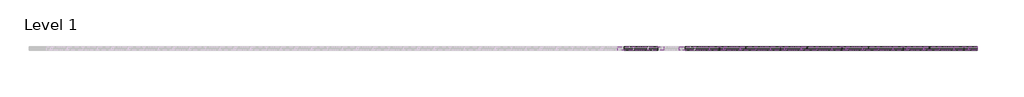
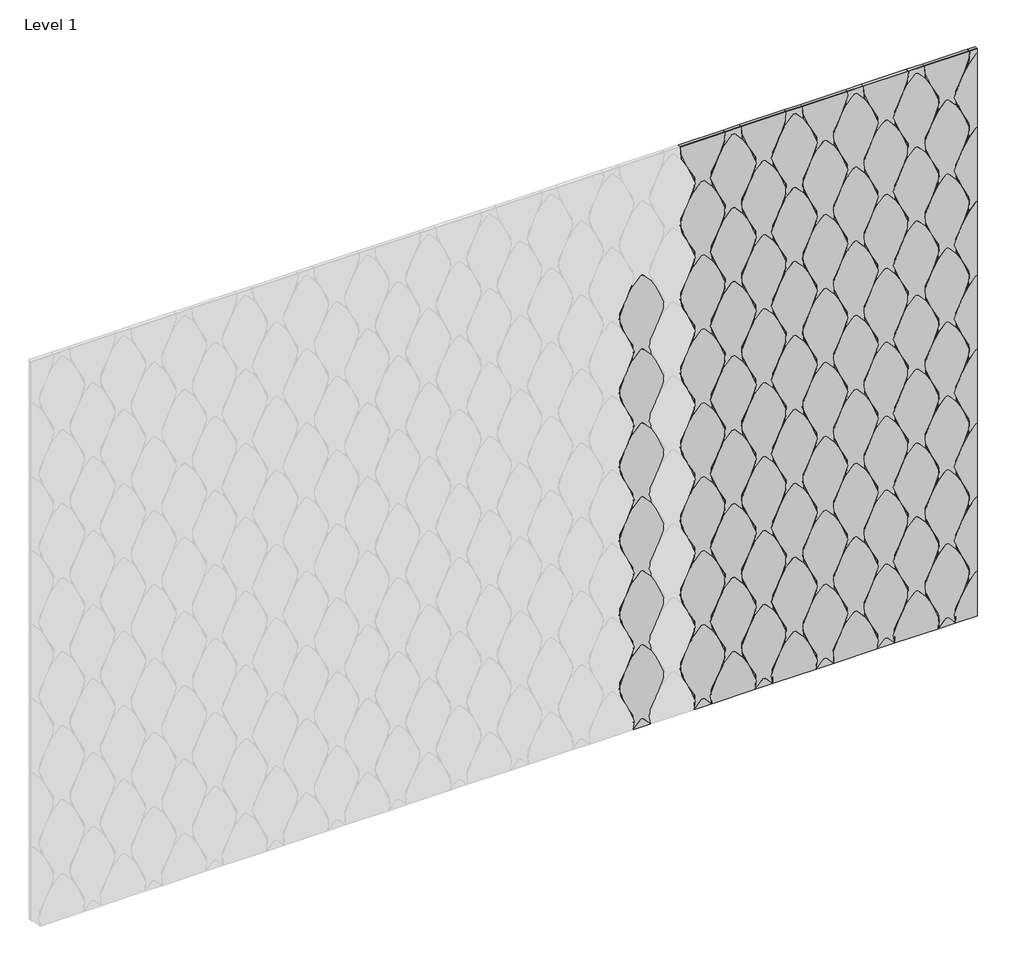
# One storey, part 3 of 3: 97 proxies.
"""IFC4 building model written with IfcOpenShell, lengths in millimetres."""

from ifc_helpers import new_model, si_unit, origin, place, context, project, spatial, transform, mapped, element, save
from components import specialty_equipment_90dfa3fd, specialty_equipment_1d57ec5c, specialty_equipment_d9d0cc40, specialty_equipment_58f33b70, specialty_equipment_77f5260d, specialty_equipment_34b07f8f, specialty_equipment_1d68d449, specialty_equipment_3b3f1b17, specialty_equipment_d7a9fa1d, specialty_equipment_8d9a8f15, specialty_equipment_a03a52e0, specialty_equipment_da839ed6, specialty_equipment_aaa09293, specialty_equipment_e5bbc03e, specialty_equipment_f8375183, specialty_equipment_363d60c9

model = new_model("IFC4")

# Units and contexts
model_context = context("Model", 3, world=origin())
ifc_project = project(units=[si_unit("LENGTHUNIT", "METRE", prefix="MILLI")], contexts=[model_context])

# Site, building, storey
site = spatial("IfcSite", under=ifc_project)
building = spatial("IfcBuilding", under=site)
storey = spatial("IfcBuildingStorey", under=building, Name="Level 1", Elevation=0.0)

# Proxies
placement = place(None, origin())
specialty_equipment_shape = specialty_equipment_90dfa3fd(model_context)
element("IfcBuildingElementProxy", 1, Name="FilzFelt_Fish_Block : Fish Block", ObjectType="FilzFelt_Fish_Block : Fish Block", at=placement, inside=storey, context=model_context, shape_type="MappedRepresentation", body=[
    mapped(specialty_equipment_shape, transform((22599.0422015, 4010.4660665, 1941.1055095), x_axis=(1.0, 0.0, 0.0), y_axis=(0.0, 0.0, 1.0), z_axis=(0.0, -1.0, 0.0))),
])
element("IfcBuildingElementProxy", 2, Name="FilzFelt_Fish_Block : Fish Block", ObjectType="FilzFelt_Fish_Block : Fish Block", at=placement, inside=storey, context=model_context, shape_type="MappedRepresentation", body=[
    mapped(specialty_equipment_shape, transform((22599.0422015, 4010.4660665, 1666.6574563), x_axis=(1.0, 0.0, 0.0), y_axis=(0.0, 0.0, 1.0), z_axis=(0.0, -1.0, 0.0))),
])
element("IfcBuildingElementProxy", 3, Name="FilzFelt_Fish_Block : Fish Block", ObjectType="FilzFelt_Fish_Block : Fish Block", at=placement, inside=storey, context=model_context, shape_type="MappedRepresentation", body=[
    mapped(specialty_equipment_shape, transform((22599.0422015, 4010.4660665, 843.3132968), x_axis=(1.0, 0.0, 0.0), y_axis=(0.0, 0.0, 1.0), z_axis=(0.0, -1.0, 0.0))),
])
element("IfcBuildingElementProxy", 4, Name="FilzFelt_Fish_Block : Fish Block", ObjectType="FilzFelt_Fish_Block : Fish Block", at=placement, inside=storey, context=model_context, shape_type="MappedRepresentation", body=[
    mapped(specialty_equipment_shape, transform((22599.0422015, 4010.4660665, 1392.2094032), x_axis=(1.0, 0.0, 0.0), y_axis=(0.0, 0.0, 1.0), z_axis=(0.0, -1.0, 0.0))),
])
element("IfcBuildingElementProxy", 5, Name="FilzFelt_Fish_Block : Fish Block", ObjectType="FilzFelt_Fish_Block : Fish Block", at=placement, inside=storey, context=model_context, shape_type="MappedRepresentation", body=[
    mapped(specialty_equipment_shape, transform((22706.139493, 4010.4660665, 2352.7775892), x_axis=(1.0, 0.0, 0.0), y_axis=(0.0, 0.0, 1.0), z_axis=(0.0, -1.0, 0.0))),
])
element("IfcBuildingElementProxy", 6, Name="FilzFelt_Fish_Block : Fish Block", ObjectType="FilzFelt_Fish_Block : Fish Block", at=placement, inside=storey, context=model_context, shape_type="MappedRepresentation", body=[
    mapped(specialty_equipment_shape, transform((22706.139493, 4010.4660665, 2078.329536), x_axis=(1.0, 0.0, 0.0), y_axis=(0.0, 0.0, 1.0), z_axis=(0.0, -1.0, 0.0))),
])
element("IfcBuildingElementProxy", 7, Name="FilzFelt_Fish_Block : Fish Block", ObjectType="FilzFelt_Fish_Block : Fish Block", at=placement, inside=storey, context=model_context, shape_type="MappedRepresentation", body=[
    mapped(specialty_equipment_shape, transform((22706.139493, 4010.4660665, 1803.8814829), x_axis=(1.0, 0.0, 0.0), y_axis=(0.0, 0.0, 1.0), z_axis=(0.0, -1.0, 0.0))),
])
element("IfcBuildingElementProxy", 8, Name="FilzFelt_Fish_Block : Fish Block", ObjectType="FilzFelt_Fish_Block : Fish Block", at=placement, inside=storey, context=model_context, shape_type="MappedRepresentation", body=[
    mapped(specialty_equipment_shape, transform((22706.139493, 4010.4660665, 1254.9853766), x_axis=(1.0, 0.0, 0.0), y_axis=(0.0, 0.0, 1.0), z_axis=(0.0, -1.0, 0.0))),
])
element("IfcBuildingElementProxy", 9, Name="FilzFelt_Fish_Block : Fish Block", ObjectType="FilzFelt_Fish_Block : Fish Block", at=placement, inside=storey, context=model_context, shape_type="MappedRepresentation", body=[
    mapped(specialty_equipment_shape, transform((22706.139493, 4010.4660665, 980.5373234), x_axis=(1.0, 0.0, 0.0), y_axis=(0.0, 0.0, 1.0), z_axis=(0.0, -1.0, 0.0))),
])
element("IfcBuildingElementProxy", 10, Name="FilzFelt_Fish_Block : Fish Block", ObjectType="FilzFelt_Fish_Block : Fish Block", at=placement, inside=storey, context=model_context, shape_type="MappedRepresentation", body=[
    mapped(specialty_equipment_shape, transform((22706.139493, 4010.4660665, 706.0892703), x_axis=(1.0, 0.0, 0.0), y_axis=(0.0, 0.0, 1.0), z_axis=(0.0, -1.0, 0.0))),
])
element("IfcBuildingElementProxy", 11, Name="FilzFelt_Fish_Block : Fish Block", ObjectType="FilzFelt_Fish_Block : Fish Block", at=placement, inside=storey, context=model_context, shape_type="MappedRepresentation", body=[
    mapped(specialty_equipment_shape, transform((22170.6530359, 4010.4660665, 1941.1055095), x_axis=(1.0, 0.0, 0.0), y_axis=(0.0, 0.0, 1.0), z_axis=(0.0, -1.0, 0.0))),
])
element("IfcBuildingElementProxy", 12, Name="FilzFelt_Fish_Block : Fish Block", ObjectType="FilzFelt_Fish_Block : Fish Block", at=placement, inside=storey, context=model_context, shape_type="MappedRepresentation", body=[
    mapped(specialty_equipment_shape, transform((22170.6530359, 4010.4660665, 1666.6574563), x_axis=(1.0, 0.0, 0.0), y_axis=(0.0, 0.0, 1.0), z_axis=(0.0, -1.0, 0.0))),
])
element("IfcBuildingElementProxy", 13, Name="FilzFelt_Fish_Block : Fish Block", ObjectType="FilzFelt_Fish_Block : Fish Block", at=placement, inside=storey, context=model_context, shape_type="MappedRepresentation", body=[
    mapped(specialty_equipment_shape, transform((22170.6530359, 4010.4660665, 2215.5535626), x_axis=(1.0, 0.0, 0.0), y_axis=(0.0, 0.0, 1.0), z_axis=(0.0, -1.0, 0.0))),
])
element("IfcBuildingElementProxy", 14, Name="FilzFelt_Fish_Block : Fish Block", ObjectType="FilzFelt_Fish_Block : Fish Block", at=placement, inside=storey, context=model_context, shape_type="MappedRepresentation", body=[
    mapped(specialty_equipment_shape, transform((22170.6530359, 4010.4660665, 843.3132968), x_axis=(1.0, 0.0, 0.0), y_axis=(0.0, 0.0, 1.0), z_axis=(0.0, -1.0, 0.0))),
])
element("IfcBuildingElementProxy", 15, Name="FilzFelt_Fish_Block : Fish Block", ObjectType="FilzFelt_Fish_Block : Fish Block", at=placement, inside=storey, context=model_context, shape_type="MappedRepresentation", body=[
    mapped(specialty_equipment_shape, transform((22170.6530359, 4010.4660665, 1392.2094032), x_axis=(1.0, 0.0, 0.0), y_axis=(0.0, 0.0, 1.0), z_axis=(0.0, -1.0, 0.0))),
])
element("IfcBuildingElementProxy", 16, Name="FilzFelt_Fish_Block : Fish Block", ObjectType="FilzFelt_Fish_Block : Fish Block", at=placement, inside=storey, context=model_context, shape_type="MappedRepresentation", body=[
    mapped(specialty_equipment_shape, transform((22170.6530359, 4010.4660665, 1117.76135), x_axis=(1.0, 0.0, 0.0), y_axis=(0.0, 0.0, 1.0), z_axis=(0.0, -1.0, 0.0))),
])
element("IfcBuildingElementProxy", 17, Name="FilzFelt_Fish_Block : Fish Block", ObjectType="FilzFelt_Fish_Block : Fish Block", at=placement, inside=storey, context=model_context, shape_type="MappedRepresentation", body=[
    mapped(specialty_equipment_shape, transform((22277.7503273, 4010.4660665, 2352.7775892), x_axis=(1.0, 0.0, 0.0), y_axis=(0.0, 0.0, 1.0), z_axis=(0.0, -1.0, 0.0))),
])
element("IfcBuildingElementProxy", 18, Name="FilzFelt_Fish_Block : Fish Block", ObjectType="FilzFelt_Fish_Block : Fish Block", at=placement, inside=storey, context=model_context, shape_type="MappedRepresentation", body=[
    mapped(specialty_equipment_shape, transform((22277.7503273, 4010.4660665, 1803.8814829), x_axis=(1.0, 0.0, 0.0), y_axis=(0.0, 0.0, 1.0), z_axis=(0.0, -1.0, 0.0))),
])
element("IfcBuildingElementProxy", 19, Name="FilzFelt_Fish_Block : Fish Block", ObjectType="FilzFelt_Fish_Block : Fish Block", at=placement, inside=storey, context=model_context, shape_type="MappedRepresentation", body=[
    mapped(specialty_equipment_shape, transform((22277.7503273, 4010.4660665, 1529.4334297), x_axis=(1.0, 0.0, 0.0), y_axis=(0.0, 0.0, 1.0), z_axis=(0.0, -1.0, 0.0))),
])
element("IfcBuildingElementProxy", 20, Name="FilzFelt_Fish_Block : Fish Block", ObjectType="FilzFelt_Fish_Block : Fish Block", at=placement, inside=storey, context=model_context, shape_type="MappedRepresentation", body=[
    mapped(specialty_equipment_shape, transform((22277.7503273, 4010.4660665, 1254.9853766), x_axis=(1.0, 0.0, 0.0), y_axis=(0.0, 0.0, 1.0), z_axis=(0.0, -1.0, 0.0))),
])
element("IfcBuildingElementProxy", 21, Name="FilzFelt_Fish_Block : Fish Block", ObjectType="FilzFelt_Fish_Block : Fish Block", at=placement, inside=storey, context=model_context, shape_type="MappedRepresentation", body=[
    mapped(specialty_equipment_shape, transform((22277.7503273, 4010.4660665, 706.0892703), x_axis=(1.0, 0.0, 0.0), y_axis=(0.0, 0.0, 1.0), z_axis=(0.0, -1.0, 0.0))),
])
element("IfcBuildingElementProxy", 22, Name="FilzFelt_Fish_Block : Fish Block", ObjectType="FilzFelt_Fish_Block : Fish Block", at=placement, inside=storey, context=model_context, shape_type="MappedRepresentation", body=[
    mapped(specialty_equipment_shape, transform((21956.458453, 4010.4660665, 1941.1055095), x_axis=(1.0, 0.0, 0.0), y_axis=(0.0, 0.0, 1.0), z_axis=(0.0, -1.0, 0.0))),
])
element("IfcBuildingElementProxy", 23, Name="FilzFelt_Fish_Block : Fish Block", ObjectType="FilzFelt_Fish_Block : Fish Block", at=placement, inside=storey, context=model_context, shape_type="MappedRepresentation", body=[
    mapped(specialty_equipment_shape, transform((21956.458453, 4010.4660665, 1666.6574563), x_axis=(1.0, 0.0, 0.0), y_axis=(0.0, 0.0, 1.0), z_axis=(0.0, -1.0, 0.0))),
])
element("IfcBuildingElementProxy", 24, Name="FilzFelt_Fish_Block : Fish Block", ObjectType="FilzFelt_Fish_Block : Fish Block", at=placement, inside=storey, context=model_context, shape_type="MappedRepresentation", body=[
    mapped(specialty_equipment_shape, transform((21956.458453, 4010.4660665, 2215.5535626), x_axis=(1.0, 0.0, 0.0), y_axis=(0.0, 0.0, 1.0), z_axis=(0.0, -1.0, 0.0))),
])
element("IfcBuildingElementProxy", 25, Name="FilzFelt_Fish_Block : Fish Block", ObjectType="FilzFelt_Fish_Block : Fish Block", at=placement, inside=storey, context=model_context, shape_type="MappedRepresentation", body=[
    mapped(specialty_equipment_shape, transform((21956.458453, 4010.4660665, 843.3132968), x_axis=(1.0, 0.0, 0.0), y_axis=(0.0, 0.0, 1.0), z_axis=(0.0, -1.0, 0.0))),
])
element("IfcBuildingElementProxy", 26, Name="FilzFelt_Fish_Block : Fish Block", ObjectType="FilzFelt_Fish_Block : Fish Block", at=placement, inside=storey, context=model_context, shape_type="MappedRepresentation", body=[
    mapped(specialty_equipment_shape, transform((21956.458453, 4010.4660665, 1392.2094032), x_axis=(1.0, 0.0, 0.0), y_axis=(0.0, 0.0, 1.0), z_axis=(0.0, -1.0, 0.0))),
])
element("IfcBuildingElementProxy", 27, Name="FilzFelt_Fish_Block : Fish Block", ObjectType="FilzFelt_Fish_Block : Fish Block", at=placement, inside=storey, context=model_context, shape_type="MappedRepresentation", body=[
    mapped(specialty_equipment_shape, transform((21956.458453, 4010.4660665, 1117.76135), x_axis=(1.0, 0.0, 0.0), y_axis=(0.0, 0.0, 1.0), z_axis=(0.0, -1.0, 0.0))),
])
element("IfcBuildingElementProxy", 28, Name="FilzFelt_Fish_Block : Fish Block", ObjectType="FilzFelt_Fish_Block : Fish Block", at=placement, inside=storey, context=model_context, shape_type="MappedRepresentation", body=[
    mapped(specialty_equipment_shape, transform((21849.3611616, 4010.4660665, 2352.7775892), x_axis=(1.0, 0.0, 0.0), y_axis=(0.0, 0.0, 1.0), z_axis=(0.0, -1.0, 0.0))),
])
element("IfcBuildingElementProxy", 29, Name="FilzFelt_Fish_Block : Fish Block", ObjectType="FilzFelt_Fish_Block : Fish Block", at=placement, inside=storey, context=model_context, shape_type="MappedRepresentation", body=[
    mapped(specialty_equipment_shape, transform((21849.3611616, 4010.4660665, 2078.329536), x_axis=(1.0, 0.0, 0.0), y_axis=(0.0, 0.0, 1.0), z_axis=(0.0, -1.0, 0.0))),
])
element("IfcBuildingElementProxy", 30, Name="FilzFelt_Fish_Block : Fish Block", ObjectType="FilzFelt_Fish_Block : Fish Block", at=placement, inside=storey, context=model_context, shape_type="MappedRepresentation", body=[
    mapped(specialty_equipment_shape, transform((21849.3611616, 4010.4660665, 1529.4334297), x_axis=(1.0, 0.0, 0.0), y_axis=(0.0, 0.0, 1.0), z_axis=(0.0, -1.0, 0.0))),
])
element("IfcBuildingElementProxy", 31, Name="FilzFelt_Fish_Block : Fish Block", ObjectType="FilzFelt_Fish_Block : Fish Block", at=placement, inside=storey, context=model_context, shape_type="MappedRepresentation", body=[
    mapped(specialty_equipment_shape, transform((21849.3611616, 4010.4660665, 1254.9853766), x_axis=(1.0, 0.0, 0.0), y_axis=(0.0, 0.0, 1.0), z_axis=(0.0, -1.0, 0.0))),
])
element("IfcBuildingElementProxy", 32, Name="FilzFelt_Fish_Block : Fish Block", ObjectType="FilzFelt_Fish_Block : Fish Block", at=placement, inside=storey, context=model_context, shape_type="MappedRepresentation", body=[
    mapped(specialty_equipment_shape, transform((21849.3611616, 4010.4660665, 980.5373234), x_axis=(1.0, 0.0, 0.0), y_axis=(0.0, 0.0, 1.0), z_axis=(0.0, -1.0, 0.0))),
])
specialty_equipment_2_shape = specialty_equipment_1d57ec5c(model_context)
element("IfcBuildingElementProxy", 33, Name="FilzFelt_Fish_Block : Fish Block", ObjectType="FilzFelt_Fish_Block : Fish Block", at=placement, inside=storey, context=model_context, shape_type="MappedRepresentation", body=[
    mapped(specialty_equipment_2_shape, transform((22599.0422015, 4010.4660665, 568.8652437), x_axis=(1.0, 0.0, 0.0), y_axis=(0.0, 0.0, 1.0), z_axis=(0.0, -1.0, 0.0))),
])
element("IfcBuildingElementProxy", 34, Name="FilzFelt_Fish_Block : Fish Block", ObjectType="FilzFelt_Fish_Block : Fish Block", at=placement, inside=storey, context=model_context, shape_type="MappedRepresentation", body=[
    mapped(specialty_equipment_2_shape, transform((22170.6530359, 4010.4660665, 568.8652437), x_axis=(1.0, 0.0, 0.0), y_axis=(0.0, 0.0, 1.0), z_axis=(0.0, -1.0, 0.0))),
])
element("IfcBuildingElementProxy", 35, Name="FilzFelt_Fish_Block : Fish Block", ObjectType="FilzFelt_Fish_Block : Fish Block", at=placement, inside=storey, context=model_context, shape_type="MappedRepresentation", body=[
    mapped(specialty_equipment_2_shape, transform((21956.458453, 4010.4660665, 568.8652437), x_axis=(1.0, 0.0, 0.0), y_axis=(0.0, 0.0, 1.0), z_axis=(0.0, -1.0, 0.0))),
])
specialty_equipment_3_shape = specialty_equipment_d9d0cc40(model_context)
element("IfcBuildingElementProxy", 36, Name="FilzFelt_Fish_Block : Fish Block", ObjectType="FilzFelt_Fish_Block : Fish Block", at=placement, inside=storey, context=model_context, shape_type="MappedRepresentation", body=[
    mapped(specialty_equipment_3_shape, transform((22599.0422015, 4010.4660665, 2764.4496689), x_axis=(1.0, 0.0, 0.0), y_axis=(0.0, 0.0, 1.0), z_axis=(0.0, -1.0, 0.0))),
])
element("IfcBuildingElementProxy", 37, Name="FilzFelt_Fish_Block : Fish Block", ObjectType="FilzFelt_Fish_Block : Fish Block", at=placement, inside=storey, context=model_context, shape_type="MappedRepresentation", body=[
    mapped(specialty_equipment_3_shape, transform((22170.6530359, 4010.4660665, 2764.4496689), x_axis=(1.0, 0.0, 0.0), y_axis=(0.0, 0.0, 1.0), z_axis=(0.0, -1.0, 0.0))),
])
element("IfcBuildingElementProxy", 38, Name="FilzFelt_Fish_Block : Fish Block", ObjectType="FilzFelt_Fish_Block : Fish Block", at=placement, inside=storey, context=model_context, shape_type="MappedRepresentation", body=[
    mapped(specialty_equipment_3_shape, transform((21956.458453, 4010.4660665, 2764.4496689), x_axis=(1.0, 0.0, 0.0), y_axis=(0.0, 0.0, 1.0), z_axis=(0.0, -1.0, 0.0))),
])
specialty_equipment_4_shape = specialty_equipment_58f33b70(model_context)
element("IfcBuildingElementProxy", 39, Name="FilzFelt_Fish_Block : Fish Block", ObjectType="FilzFelt_Fish_Block : Fish Block", at=placement, inside=storey, context=model_context, shape_type="MappedRepresentation", body=[
    mapped(specialty_equipment_4_shape, transform((22599.0422015, 4010.4660665, 2490.0016158), x_axis=(1.0, 0.0, 0.0), y_axis=(0.0, 0.0, 1.0), z_axis=(0.0, -1.0, 0.0))),
])
element("IfcBuildingElementProxy", 40, Name="FilzFelt_Fish_Block : Fish Block", ObjectType="FilzFelt_Fish_Block : Fish Block", at=placement, inside=storey, context=model_context, shape_type="MappedRepresentation", body=[
    mapped(specialty_equipment_4_shape, transform((22170.6530359, 4010.4660665, 2490.0016158), x_axis=(1.0, 0.0, 0.0), y_axis=(0.0, 0.0, 1.0), z_axis=(0.0, -1.0, 0.0))),
])
element("IfcBuildingElementProxy", 41, Name="FilzFelt_Fish_Block : Fish Block", ObjectType="FilzFelt_Fish_Block : Fish Block", at=placement, inside=storey, context=model_context, shape_type="MappedRepresentation", body=[
    mapped(specialty_equipment_4_shape, transform((21956.458453, 4010.4660665, 2490.0016158), x_axis=(1.0, 0.0, 0.0), y_axis=(0.0, 0.0, 1.0), z_axis=(0.0, -1.0, 0.0))),
])
specialty_equipment_5_shape = specialty_equipment_77f5260d(model_context)
element("IfcBuildingElementProxy", 42, Name="FilzFelt_Fish_Block : Fish Block", ObjectType="FilzFelt_Fish_Block : Fish Block", at=placement, inside=storey, context=model_context, shape_type="MappedRepresentation", body=[
    mapped(specialty_equipment_5_shape, transform((22706.139493, 4010.4660665, 2627.2256423), x_axis=(1.0, 0.0, 0.0), y_axis=(0.0, 0.0, 1.0), z_axis=(0.0, -1.0, 0.0))),
])
element("IfcBuildingElementProxy", 43, Name="FilzFelt_Fish_Block : Fish Block", ObjectType="FilzFelt_Fish_Block : Fish Block", at=placement, inside=storey, context=model_context, shape_type="MappedRepresentation", body=[
    mapped(specialty_equipment_shape, transform((22599.0422015, 4010.4660665, 2215.5535626), x_axis=(1.0, 0.0, 0.0), y_axis=(0.0, 0.0, 1.0), z_axis=(0.0, -1.0, 0.0))),
])
element("IfcBuildingElementProxy", 44, Name="FilzFelt_Fish_Block : Fish Block", ObjectType="FilzFelt_Fish_Block : Fish Block", at=placement, inside=storey, context=model_context, shape_type="MappedRepresentation", body=[
    mapped(specialty_equipment_shape, transform((22599.0422015, 4010.4660665, 1117.76135), x_axis=(1.0, 0.0, 0.0), y_axis=(0.0, 0.0, 1.0), z_axis=(0.0, -1.0, 0.0))),
])
element("IfcBuildingElementProxy", 45, Name="FilzFelt_Fish_Block : Fish Block", ObjectType="FilzFelt_Fish_Block : Fish Block", at=placement, inside=storey, context=model_context, shape_type="MappedRepresentation", body=[
    mapped(specialty_equipment_shape, transform((22706.139493, 4010.4660665, 1529.4334297), x_axis=(1.0, 0.0, 0.0), y_axis=(0.0, 0.0, 1.0), z_axis=(0.0, -1.0, 0.0))),
])
element("IfcBuildingElementProxy", 46, Name="FilzFelt_Fish_Block : Fish Block", ObjectType="FilzFelt_Fish_Block : Fish Block", at=placement, inside=storey, context=model_context, shape_type="MappedRepresentation", body=[
    mapped(specialty_equipment_shape, transform((22277.7503273, 4010.4660665, 2078.329536), x_axis=(1.0, 0.0, 0.0), y_axis=(0.0, 0.0, 1.0), z_axis=(0.0, -1.0, 0.0))),
])
element("IfcBuildingElementProxy", 47, Name="FilzFelt_Fish_Block : Fish Block", ObjectType="FilzFelt_Fish_Block : Fish Block", at=placement, inside=storey, context=model_context, shape_type="MappedRepresentation", body=[
    mapped(specialty_equipment_shape, transform((22277.7503273, 4010.4660665, 980.5373234), x_axis=(1.0, 0.0, 0.0), y_axis=(0.0, 0.0, 1.0), z_axis=(0.0, -1.0, 0.0))),
])
element("IfcBuildingElementProxy", 48, Name="FilzFelt_Fish_Block : Fish Block", ObjectType="FilzFelt_Fish_Block : Fish Block", at=placement, inside=storey, context=model_context, shape_type="MappedRepresentation", body=[
    mapped(specialty_equipment_shape, transform((21849.3611616, 4010.4660665, 1803.8814829), x_axis=(1.0, 0.0, 0.0), y_axis=(0.0, 0.0, 1.0), z_axis=(0.0, -1.0, 0.0))),
])
element("IfcBuildingElementProxy", 49, Name="FilzFelt_Fish_Block : Fish Block", ObjectType="FilzFelt_Fish_Block : Fish Block", at=placement, inside=storey, context=model_context, shape_type="MappedRepresentation", body=[
    mapped(specialty_equipment_shape, transform((21849.3611616, 4010.4660665, 706.0892703), x_axis=(1.0, 0.0, 0.0), y_axis=(0.0, 0.0, 1.0), z_axis=(0.0, -1.0, 0.0))),
])
specialty_equipment_6_shape = specialty_equipment_34b07f8f(model_context)
element("IfcBuildingElementProxy", 50, Name="FilzFelt_Fish_Block : Fish Block", ObjectType="FilzFelt_Fish_Block : Fish Block", at=placement, inside=storey, context=model_context, shape_type="MappedRepresentation", body=[
    mapped(specialty_equipment_6_shape, transform((22706.139493, 4010.4660665, 431.6364423), x_axis=(1.0, 0.0, 0.0), y_axis=(0.0, 0.0, 1.0), z_axis=(0.0, -1.0, 0.0))),
])
specialty_equipment_7_shape = specialty_equipment_1d68d449(model_context)
element("IfcBuildingElementProxy", 51, Name="FilzFelt_Fish_Block : Fish Block", ObjectType="FilzFelt_Fish_Block : Fish Block", at=placement, inside=storey, context=model_context, shape_type="MappedRepresentation", body=[
    mapped(specialty_equipment_7_shape, transform((22384.8476187, 4010.4660665, 1941.1055095), x_axis=(-1.0, 0.0, 0.0), y_axis=(0.0, 0.0, -1.0), z_axis=(0.0, -1.0, 0.0))),
])
element("IfcBuildingElementProxy", 52, Name="FilzFelt_Fish_Block : Fish Block", ObjectType="FilzFelt_Fish_Block : Fish Block", at=placement, inside=storey, context=model_context, shape_type="MappedRepresentation", body=[
    mapped(specialty_equipment_7_shape, transform((22384.8476187, 4010.4660665, 2215.5535626), x_axis=(-1.0, 0.0, 0.0), y_axis=(0.0, 0.0, -1.0), z_axis=(0.0, -1.0, 0.0))),
])
element("IfcBuildingElementProxy", 53, Name="FilzFelt_Fish_Block : Fish Block", ObjectType="FilzFelt_Fish_Block : Fish Block", at=placement, inside=storey, context=model_context, shape_type="MappedRepresentation", body=[
    mapped(specialty_equipment_7_shape, transform((22384.8476187, 4010.4660665, 843.3132968), x_axis=(-1.0, 0.0, 0.0), y_axis=(0.0, 0.0, -1.0), z_axis=(0.0, -1.0, 0.0))),
])
element("IfcBuildingElementProxy", 54, Name="FilzFelt_Fish_Block : Fish Block", ObjectType="FilzFelt_Fish_Block : Fish Block", at=placement, inside=storey, context=model_context, shape_type="MappedRepresentation", body=[
    mapped(specialty_equipment_7_shape, transform((22384.8476187, 4010.4660665, 1392.2094032), x_axis=(-1.0, 0.0, 0.0), y_axis=(0.0, 0.0, -1.0), z_axis=(0.0, -1.0, 0.0))),
])
element("IfcBuildingElementProxy", 55, Name="FilzFelt_Fish_Block : Fish Block", ObjectType="FilzFelt_Fish_Block : Fish Block", at=placement, inside=storey, context=model_context, shape_type="MappedRepresentation", body=[
    mapped(specialty_equipment_7_shape, transform((22384.8476187, 4010.4660665, 1117.76135), x_axis=(-1.0, 0.0, 0.0), y_axis=(0.0, 0.0, -1.0), z_axis=(0.0, -1.0, 0.0))),
])
element("IfcBuildingElementProxy", 56, Name="FilzFelt_Fish_Block : Fish Block", ObjectType="FilzFelt_Fish_Block : Fish Block", at=placement, inside=storey, context=model_context, shape_type="MappedRepresentation", body=[
    mapped(specialty_equipment_7_shape, transform((22491.9449101, 4010.4660665, 2352.7775892), x_axis=(-1.0, 0.0, 0.0), y_axis=(0.0, 0.0, -1.0), z_axis=(0.0, -1.0, 0.0))),
])
element("IfcBuildingElementProxy", 57, Name="FilzFelt_Fish_Block : Fish Block", ObjectType="FilzFelt_Fish_Block : Fish Block", at=placement, inside=storey, context=model_context, shape_type="MappedRepresentation", body=[
    mapped(specialty_equipment_7_shape, transform((22491.9449101, 4010.4660665, 2078.329536), x_axis=(-1.0, 0.0, 0.0), y_axis=(0.0, 0.0, -1.0), z_axis=(0.0, -1.0, 0.0))),
])
element("IfcBuildingElementProxy", 58, Name="FilzFelt_Fish_Block : Fish Block", ObjectType="FilzFelt_Fish_Block : Fish Block", at=placement, inside=storey, context=model_context, shape_type="MappedRepresentation", body=[
    mapped(specialty_equipment_7_shape, transform((22491.9449101, 4010.4660665, 1803.8814829), x_axis=(-1.0, 0.0, 0.0), y_axis=(0.0, 0.0, -1.0), z_axis=(0.0, -1.0, 0.0))),
])
element("IfcBuildingElementProxy", 59, Name="FilzFelt_Fish_Block : Fish Block", ObjectType="FilzFelt_Fish_Block : Fish Block", at=placement, inside=storey, context=model_context, shape_type="MappedRepresentation", body=[
    mapped(specialty_equipment_7_shape, transform((22491.9449101, 4010.4660665, 1529.4334297), x_axis=(-1.0, 0.0, 0.0), y_axis=(0.0, 0.0, -1.0), z_axis=(0.0, -1.0, 0.0))),
])
element("IfcBuildingElementProxy", 60, Name="FilzFelt_Fish_Block : Fish Block", ObjectType="FilzFelt_Fish_Block : Fish Block", at=placement, inside=storey, context=model_context, shape_type="MappedRepresentation", body=[
    mapped(specialty_equipment_7_shape, transform((22491.9449101, 4010.4660665, 1254.9853766), x_axis=(-1.0, 0.0, 0.0), y_axis=(0.0, 0.0, -1.0), z_axis=(0.0, -1.0, 0.0))),
])
element("IfcBuildingElementProxy", 61, Name="FilzFelt_Fish_Block : Fish Block", ObjectType="FilzFelt_Fish_Block : Fish Block", at=placement, inside=storey, context=model_context, shape_type="MappedRepresentation", body=[
    mapped(specialty_equipment_7_shape, transform((22491.9449101, 4010.4660665, 980.5373234), x_axis=(-1.0, 0.0, 0.0), y_axis=(0.0, 0.0, -1.0), z_axis=(0.0, -1.0, 0.0))),
])
element("IfcBuildingElementProxy", 62, Name="FilzFelt_Fish_Block : Fish Block", ObjectType="FilzFelt_Fish_Block : Fish Block", at=placement, inside=storey, context=model_context, shape_type="MappedRepresentation", body=[
    mapped(specialty_equipment_7_shape, transform((22491.9449101, 4010.4660665, 706.0892703), x_axis=(-1.0, 0.0, 0.0), y_axis=(0.0, 0.0, -1.0), z_axis=(0.0, -1.0, 0.0))),
])
element("IfcBuildingElementProxy", 63, Name="FilzFelt_Fish_Block : Fish Block", ObjectType="FilzFelt_Fish_Block : Fish Block", at=placement, inside=storey, context=model_context, shape_type="MappedRepresentation", body=[
    mapped(specialty_equipment_7_shape, transform((21635.1665787, 4010.4660665, 1803.8814829), x_axis=(-1.0, 0.0, 0.0), y_axis=(0.0, 0.0, -1.0), z_axis=(0.0, -1.0, 0.0))),
])
element("IfcBuildingElementProxy", 64, Name="FilzFelt_Fish_Block : Fish Block", ObjectType="FilzFelt_Fish_Block : Fish Block", at=placement, inside=storey, context=model_context, shape_type="MappedRepresentation", body=[
    mapped(specialty_equipment_7_shape, transform((21635.1665787, 4010.4660665, 1529.4334297), x_axis=(-1.0, 0.0, 0.0), y_axis=(0.0, 0.0, -1.0), z_axis=(0.0, -1.0, 0.0))),
])
element("IfcBuildingElementProxy", 65, Name="FilzFelt_Fish_Block : Fish Block", ObjectType="FilzFelt_Fish_Block : Fish Block", at=placement, inside=storey, context=model_context, shape_type="MappedRepresentation", body=[
    mapped(specialty_equipment_7_shape, transform((21635.1665787, 4010.4660665, 1254.9853766), x_axis=(-1.0, 0.0, 0.0), y_axis=(0.0, 0.0, -1.0), z_axis=(0.0, -1.0, 0.0))),
])
element("IfcBuildingElementProxy", 66, Name="FilzFelt_Fish_Block : Fish Block", ObjectType="FilzFelt_Fish_Block : Fish Block", at=placement, inside=storey, context=model_context, shape_type="MappedRepresentation", body=[
    mapped(specialty_equipment_7_shape, transform((21635.1665787, 4010.4660665, 980.5373234), x_axis=(-1.0, 0.0, 0.0), y_axis=(0.0, 0.0, -1.0), z_axis=(0.0, -1.0, 0.0))),
])
element("IfcBuildingElementProxy", 67, Name="FilzFelt_Fish_Block : Fish Block", ObjectType="FilzFelt_Fish_Block : Fish Block", at=placement, inside=storey, context=model_context, shape_type="MappedRepresentation", body=[
    mapped(specialty_equipment_7_shape, transform((21635.1665787, 4010.4660665, 706.0892703), x_axis=(-1.0, 0.0, 0.0), y_axis=(0.0, 0.0, -1.0), z_axis=(0.0, -1.0, 0.0))),
])
element("IfcBuildingElementProxy", 68, Name="FilzFelt_Fish_Block : Fish Block", ObjectType="FilzFelt_Fish_Block : Fish Block", at=placement, inside=storey, context=model_context, shape_type="MappedRepresentation", body=[
    mapped(specialty_equipment_7_shape, transform((22063.5557444, 4010.4660665, 2352.7775892), x_axis=(-1.0, 0.0, 0.0), y_axis=(0.0, 0.0, -1.0), z_axis=(0.0, -1.0, 0.0))),
])
element("IfcBuildingElementProxy", 69, Name="FilzFelt_Fish_Block : Fish Block", ObjectType="FilzFelt_Fish_Block : Fish Block", at=placement, inside=storey, context=model_context, shape_type="MappedRepresentation", body=[
    mapped(specialty_equipment_7_shape, transform((22063.5557444, 4010.4660665, 2078.329536), x_axis=(-1.0, 0.0, 0.0), y_axis=(0.0, 0.0, -1.0), z_axis=(0.0, -1.0, 0.0))),
])
element("IfcBuildingElementProxy", 70, Name="FilzFelt_Fish_Block : Fish Block", ObjectType="FilzFelt_Fish_Block : Fish Block", at=placement, inside=storey, context=model_context, shape_type="MappedRepresentation", body=[
    mapped(specialty_equipment_7_shape, transform((22063.5557444, 4010.4660665, 1803.8814829), x_axis=(-1.0, 0.0, 0.0), y_axis=(0.0, 0.0, -1.0), z_axis=(0.0, -1.0, 0.0))),
])
element("IfcBuildingElementProxy", 71, Name="FilzFelt_Fish_Block : Fish Block", ObjectType="FilzFelt_Fish_Block : Fish Block", at=placement, inside=storey, context=model_context, shape_type="MappedRepresentation", body=[
    mapped(specialty_equipment_7_shape, transform((22063.5557444, 4010.4660665, 1529.4334297), x_axis=(-1.0, 0.0, 0.0), y_axis=(0.0, 0.0, -1.0), z_axis=(0.0, -1.0, 0.0))),
])
element("IfcBuildingElementProxy", 72, Name="FilzFelt_Fish_Block : Fish Block", ObjectType="FilzFelt_Fish_Block : Fish Block", at=placement, inside=storey, context=model_context, shape_type="MappedRepresentation", body=[
    mapped(specialty_equipment_7_shape, transform((22063.5557444, 4010.4660665, 1254.9853766), x_axis=(-1.0, 0.0, 0.0), y_axis=(0.0, 0.0, -1.0), z_axis=(0.0, -1.0, 0.0))),
])
element("IfcBuildingElementProxy", 73, Name="FilzFelt_Fish_Block : Fish Block", ObjectType="FilzFelt_Fish_Block : Fish Block", at=placement, inside=storey, context=model_context, shape_type="MappedRepresentation", body=[
    mapped(specialty_equipment_7_shape, transform((22063.5557444, 4010.4660665, 980.5373234), x_axis=(-1.0, 0.0, 0.0), y_axis=(0.0, 0.0, -1.0), z_axis=(0.0, -1.0, 0.0))),
])
element("IfcBuildingElementProxy", 74, Name="FilzFelt_Fish_Block : Fish Block", ObjectType="FilzFelt_Fish_Block : Fish Block", at=placement, inside=storey, context=model_context, shape_type="MappedRepresentation", body=[
    mapped(specialty_equipment_7_shape, transform((22063.5557444, 4010.4660665, 706.0892703), x_axis=(-1.0, 0.0, 0.0), y_axis=(0.0, 0.0, -1.0), z_axis=(0.0, -1.0, 0.0))),
])
specialty_equipment_8_shape = specialty_equipment_3b3f1b17(model_context)
element("IfcBuildingElementProxy", 75, Name="FilzFelt_Fish_Block : Fish Block", ObjectType="FilzFelt_Fish_Block : Fish Block", at=placement, inside=storey, context=model_context, shape_type="MappedRepresentation", body=[
    mapped(specialty_equipment_8_shape, transform((22384.8476187, 4010.4660665, 2764.4496689), x_axis=(-1.0, 0.0, 0.0), y_axis=(0.0, 0.0, -1.0), z_axis=(0.0, -1.0, 0.0))),
])
specialty_equipment_9_shape = specialty_equipment_d7a9fa1d(model_context)
element("IfcBuildingElementProxy", 76, Name="FilzFelt_Fish_Block : Fish Block", ObjectType="FilzFelt_Fish_Block : Fish Block", at=placement, inside=storey, context=model_context, shape_type="MappedRepresentation", body=[
    mapped(specialty_equipment_9_shape, transform((22384.8476187, 4010.4660665, 2490.0016158), x_axis=(-1.0, 0.0, 0.0), y_axis=(0.0, 0.0, -1.0), z_axis=(0.0, -1.0, 0.0))),
])
element("IfcBuildingElementProxy", 77, Name="FilzFelt_Fish_Block : Fish Block", ObjectType="FilzFelt_Fish_Block : Fish Block", at=placement, inside=storey, context=model_context, shape_type="MappedRepresentation", body=[
    mapped(specialty_equipment_7_shape, transform((22384.8476187, 4010.4660665, 1666.6574563), x_axis=(-1.0, 0.0, 0.0), y_axis=(0.0, 0.0, -1.0), z_axis=(0.0, -1.0, 0.0))),
])
element("IfcBuildingElementProxy", 78, Name="FilzFelt_Fish_Block : Fish Block", ObjectType="FilzFelt_Fish_Block : Fish Block", at=placement, inside=storey, context=model_context, shape_type="MappedRepresentation", body=[
    mapped(specialty_equipment_7_shape, transform((21635.1665787, 4010.4660665, 2078.329536), x_axis=(-1.0, 0.0, 0.0), y_axis=(0.0, 0.0, -1.0), z_axis=(0.0, -1.0, 0.0))),
])
specialty_equipment_10_shape = specialty_equipment_8d9a8f15(model_context)
element("IfcBuildingElementProxy", 79, Name="FilzFelt_Fish_Block : Fish Block", ObjectType="FilzFelt_Fish_Block : Fish Block", at=placement, inside=storey, context=model_context, shape_type="MappedRepresentation", body=[
    mapped(specialty_equipment_10_shape, transform((22384.8476187, 4010.4660665, 568.8652437), x_axis=(-1.0, 0.0, 0.0), y_axis=(0.0, 0.0, -1.0), z_axis=(0.0, -1.0, 0.0))),
])
specialty_equipment_11_shape = specialty_equipment_a03a52e0(model_context)
element("IfcBuildingElementProxy", 80, Name="FilzFelt_Fish_Block : Fish Block", ObjectType="FilzFelt_Fish_Block : Fish Block", at=placement, inside=storey, context=model_context, shape_type="MappedRepresentation", body=[
    mapped(specialty_equipment_11_shape, transform((22491.9449101, 4010.4660665, 2627.2256423), x_axis=(-1.0, 0.0, 0.0), y_axis=(0.0, 0.0, -1.0), z_axis=(0.0, -1.0, 0.0))),
])
specialty_equipment_12_shape = specialty_equipment_da839ed6(model_context)
element("IfcBuildingElementProxy", 81, Name="FilzFelt_Fish_Block : Fish Block", ObjectType="FilzFelt_Fish_Block : Fish Block", at=placement, inside=storey, context=model_context, shape_type="MappedRepresentation", body=[
    mapped(specialty_equipment_12_shape, transform((22491.9449101, 4010.4660665, 431.6364423), x_axis=(-1.0, 0.0, 0.0), y_axis=(0.0, 0.0, -1.0), z_axis=(0.0, -1.0, 0.0))),
])
element("IfcBuildingElementProxy", 82, Name="FilzFelt_Fish_Block : Fish Block", ObjectType="FilzFelt_Fish_Block : Fish Block", at=placement, inside=storey, context=model_context, shape_type="MappedRepresentation", body=[
    mapped(specialty_equipment_12_shape, transform((21635.1665787, 4010.4660665, 431.6364423), x_axis=(-1.0, 0.0, 0.0), y_axis=(0.0, 0.0, -1.0), z_axis=(0.0, -1.0, 0.0))),
])
element("IfcBuildingElementProxy", 83, Name="FilzFelt_Fish_Block : Fish Block", ObjectType="FilzFelt_Fish_Block : Fish Block", at=placement, inside=storey, context=model_context, shape_type="MappedRepresentation", body=[
    mapped(specialty_equipment_11_shape, transform((22063.5557444, 4010.4660665, 2627.2256423), x_axis=(-1.0, 0.0, 0.0), y_axis=(0.0, 0.0, -1.0), z_axis=(0.0, -1.0, 0.0))),
])
element("IfcBuildingElementProxy", 84, Name="FilzFelt_Fish_Block : Fish Block", ObjectType="FilzFelt_Fish_Block : Fish Block", at=placement, inside=storey, context=model_context, shape_type="MappedRepresentation", body=[
    mapped(specialty_equipment_12_shape, transform((22063.5557444, 4010.4660665, 431.6364423), x_axis=(-1.0, 0.0, 0.0), y_axis=(0.0, 0.0, -1.0), z_axis=(0.0, -1.0, 0.0))),
])
element("IfcBuildingElementProxy", 85, Name="FilzFelt_Fish_Block : Fish Block", ObjectType="FilzFelt_Fish_Block : Fish Block", at=placement, inside=storey, context=model_context, shape_type="MappedRepresentation", body=[
    mapped(specialty_equipment_5_shape, transform((22277.7503273, 4010.4660665, 2627.2256423), x_axis=(1.0, 0.0, 0.0), y_axis=(0.0, 0.0, 1.0), z_axis=(0.0, -1.0, 0.0))),
])
element("IfcBuildingElementProxy", 86, Name="FilzFelt_Fish_Block : Fish Block", ObjectType="FilzFelt_Fish_Block : Fish Block", at=placement, inside=storey, context=model_context, shape_type="MappedRepresentation", body=[
    mapped(specialty_equipment_5_shape, transform((21849.3611616, 4010.4660665, 2627.2256423), x_axis=(1.0, 0.0, 0.0), y_axis=(0.0, 0.0, 1.0), z_axis=(0.0, -1.0, 0.0))),
])
element("IfcBuildingElementProxy", 87, Name="FilzFelt_Fish_Block : Fish Block", ObjectType="FilzFelt_Fish_Block : Fish Block", at=placement, inside=storey, context=model_context, shape_type="MappedRepresentation", body=[
    mapped(specialty_equipment_6_shape, transform((22277.7503273, 4010.4660665, 431.6364423), x_axis=(1.0, 0.0, 0.0), y_axis=(0.0, 0.0, 1.0), z_axis=(0.0, -1.0, 0.0))),
])
element("IfcBuildingElementProxy", 88, Name="FilzFelt_Fish_Block : Fish Block", ObjectType="FilzFelt_Fish_Block : Fish Block", at=placement, inside=storey, context=model_context, shape_type="MappedRepresentation", body=[
    mapped(specialty_equipment_6_shape, transform((21849.3611616, 4010.4660665, 431.6364423), x_axis=(1.0, 0.0, 0.0), y_axis=(0.0, 0.0, 1.0), z_axis=(0.0, -1.0, 0.0))),
])
specialty_equipment_13_shape = specialty_equipment_aaa09293(model_context)
element("IfcBuildingElementProxy", 89, Name="FilzFelt_Fish_Block : Fish Block", ObjectType="FilzFelt_Fish_Block : Fish Block", at=placement, inside=storey, context=model_context, shape_type="MappedRepresentation", body=[
    mapped(specialty_equipment_13_shape, transform((22813.2367844, 4010.4660665, 1941.1055095), x_axis=(1.0, 0.0, 0.0), y_axis=(0.0, 0.0, 1.0), z_axis=(0.0, -1.0, 0.0))),
])
element("IfcBuildingElementProxy", 90, Name="FilzFelt_Fish_Block : Fish Block", ObjectType="FilzFelt_Fish_Block : Fish Block", at=placement, inside=storey, context=model_context, shape_type="MappedRepresentation", body=[
    mapped(specialty_equipment_13_shape, transform((22813.2367844, 4010.4660665, 1666.6574563), x_axis=(1.0, 0.0, 0.0), y_axis=(0.0, 0.0, 1.0), z_axis=(0.0, -1.0, 0.0))),
])
element("IfcBuildingElementProxy", 91, Name="FilzFelt_Fish_Block : Fish Block", ObjectType="FilzFelt_Fish_Block : Fish Block", at=placement, inside=storey, context=model_context, shape_type="MappedRepresentation", body=[
    mapped(specialty_equipment_13_shape, transform((22813.2367844, 4010.4660665, 2215.5535626), x_axis=(1.0, 0.0, 0.0), y_axis=(0.0, 0.0, 1.0), z_axis=(0.0, -1.0, 0.0))),
])
element("IfcBuildingElementProxy", 92, Name="FilzFelt_Fish_Block : Fish Block", ObjectType="FilzFelt_Fish_Block : Fish Block", at=placement, inside=storey, context=model_context, shape_type="MappedRepresentation", body=[
    mapped(specialty_equipment_13_shape, transform((22813.2367844, 4010.4660665, 843.3132968), x_axis=(1.0, 0.0, 0.0), y_axis=(0.0, 0.0, 1.0), z_axis=(0.0, -1.0, 0.0))),
])
element("IfcBuildingElementProxy", 93, Name="FilzFelt_Fish_Block : Fish Block", ObjectType="FilzFelt_Fish_Block : Fish Block", at=placement, inside=storey, context=model_context, shape_type="MappedRepresentation", body=[
    mapped(specialty_equipment_13_shape, transform((22813.2367844, 4010.4660665, 1392.2094032), x_axis=(1.0, 0.0, 0.0), y_axis=(0.0, 0.0, 1.0), z_axis=(0.0, -1.0, 0.0))),
])
element("IfcBuildingElementProxy", 94, Name="FilzFelt_Fish_Block : Fish Block", ObjectType="FilzFelt_Fish_Block : Fish Block", at=placement, inside=storey, context=model_context, shape_type="MappedRepresentation", body=[
    mapped(specialty_equipment_13_shape, transform((22813.2367844, 4010.4660665, 1117.76135), x_axis=(1.0, 0.0, 0.0), y_axis=(0.0, 0.0, 1.0), z_axis=(0.0, -1.0, 0.0))),
])
specialty_equipment_14_shape = specialty_equipment_e5bbc03e(model_context)
element("IfcBuildingElementProxy", 95, Name="FilzFelt_Fish_Block : Fish Block", ObjectType="FilzFelt_Fish_Block : Fish Block", at=placement, inside=storey, context=model_context, shape_type="MappedRepresentation", body=[
    mapped(specialty_equipment_14_shape, transform((22813.2367844, 4010.4660665, 568.8652437), x_axis=(1.0, 0.0, 0.0), y_axis=(0.0, 0.0, 1.0), z_axis=(0.0, -1.0, 0.0))),
])
specialty_equipment_15_shape = specialty_equipment_f8375183(model_context)
element("IfcBuildingElementProxy", 96, Name="FilzFelt_Fish_Block : Fish Block", ObjectType="FilzFelt_Fish_Block : Fish Block", at=placement, inside=storey, context=model_context, shape_type="MappedRepresentation", body=[
    mapped(specialty_equipment_15_shape, transform((22813.2367844, 4010.4660665, 2764.4496689), x_axis=(1.0, 0.0, 0.0), y_axis=(0.0, 0.0, 1.0), z_axis=(0.0, -1.0, 0.0))),
])
specialty_equipment_16_shape = specialty_equipment_363d60c9(model_context)
element("IfcBuildingElementProxy", 97, Name="FilzFelt_Fish_Block : Fish Block", ObjectType="FilzFelt_Fish_Block : Fish Block", at=placement, inside=storey, context=model_context, shape_type="MappedRepresentation", body=[
    mapped(specialty_equipment_16_shape, transform((22813.2367844, 4010.4660665, 2490.0016158), x_axis=(1.0, 0.0, 0.0), y_axis=(0.0, 0.0, 1.0), z_axis=(0.0, -1.0, 0.0))),
])

save(model, "model.ifc")
